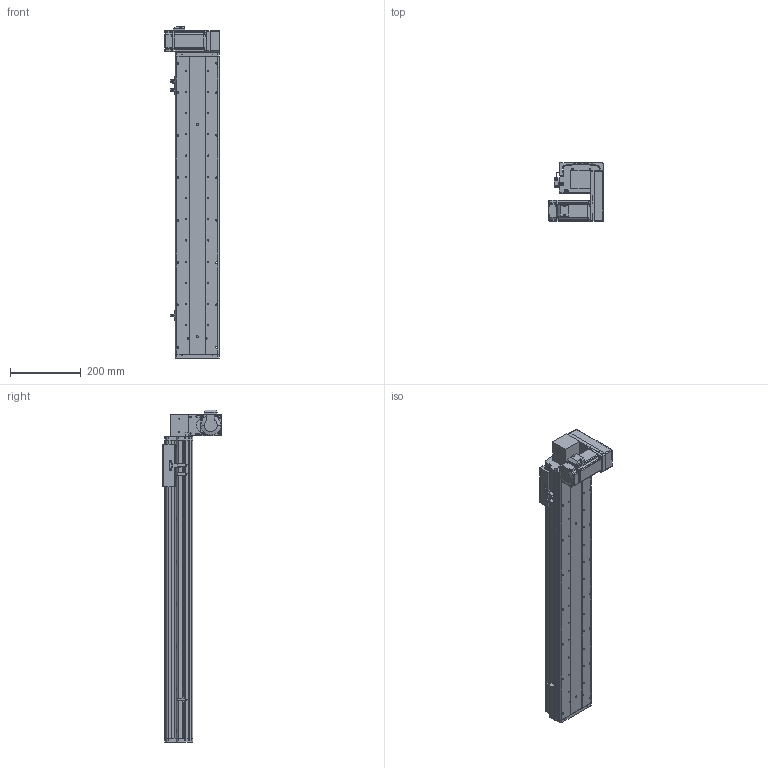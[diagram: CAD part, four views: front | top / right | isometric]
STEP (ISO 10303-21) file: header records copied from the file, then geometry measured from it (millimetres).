
FILE_DESCRIPTION (( 'STEP AP214' ), '1' );
FILE_NAME ('KSD125B-S650-MLD-CM.STEP', '2017-10-21T02:21:12', ( '微软用户' ), ( '微软中国' ), 'SwSTEP 2.0', 'SolidWorks 2014', '' );
FILE_SCHEMA (( 'AUTOMOTIVE_DESIGN' ));
Length unit declared in the file: millimetre
Products named in the file (17): KSD125模组650行程同步带-防尘盖; 125模组650行程同步带-底板; MHMD042G1CA_2_03; KSD125模组同步带-防撞垫2; 覜茼え68遵圉猾敕; U倰嫖萇假蚾璃; U倰嫖萇EEㄜSX672; KSD125模组同步带-防撞垫1; 前端板-125宽模组同步带; 125模组同步带-尾端板1; KSD125模组同步带-滑动座1; KSD125B-S650-MLD-CM; 悵誘欶奻狟殏; 100宽马达安装板连板上下折丝杆同步带; HTPA30S3M150_A_H6_a萇儂蚚; HTPA30S3M150_A_H6_a佪裝蚚; 100宽马达安装板同步带左
Assembly tree (20 placements, depth 2):
  KSD125B-S650-MLD-CM
    KSD125模组同步带-滑动座1
    125模组同步带-尾端板1
    前端板-125宽模组同步带
    KSD125模组同步带-防撞垫1
    U倰嫖萇EEㄜSX672  x3
    U倰嫖萇假蚾璃  x3
    覜茼え68遵圉猾敕
    KSD125模组同步带-防撞垫2
    MHMD042G1CA_2_03
    125模组650行程同步带-底板
    KSD125模组650行程同步带-防尘盖
    100宽马达安装板同步带左
    HTPA30S3M150_A_H6_a佪裝蚚
    HTPA30S3M150_A_H6_a萇儂蚚
    100宽马达安装板连板上下折丝杆同步带
    悵誘欶奻狟殏
Bounding box: 155 x 166.5 x 939 mm (x, y, z)
Volume: 2989801.9 mm3; surface area: 1027032.5 mm2
Topology: 19 solids, 22 shells, 2267 faces, 6565 edges, 4338 vertices
Faces by surface type: cylinder 1416, plane 724, cone 105, bspline 22
Entity records: 80459 total; most frequent: CARTESIAN_POINT 15915, DIRECTION 12514, ORIENTED_EDGE 11650, EDGE_CURVE 5903, AXIS2_PLACEMENT_3D 4833, VERTEX_POINT 3930, VECTOR 2848, LINE 2848
